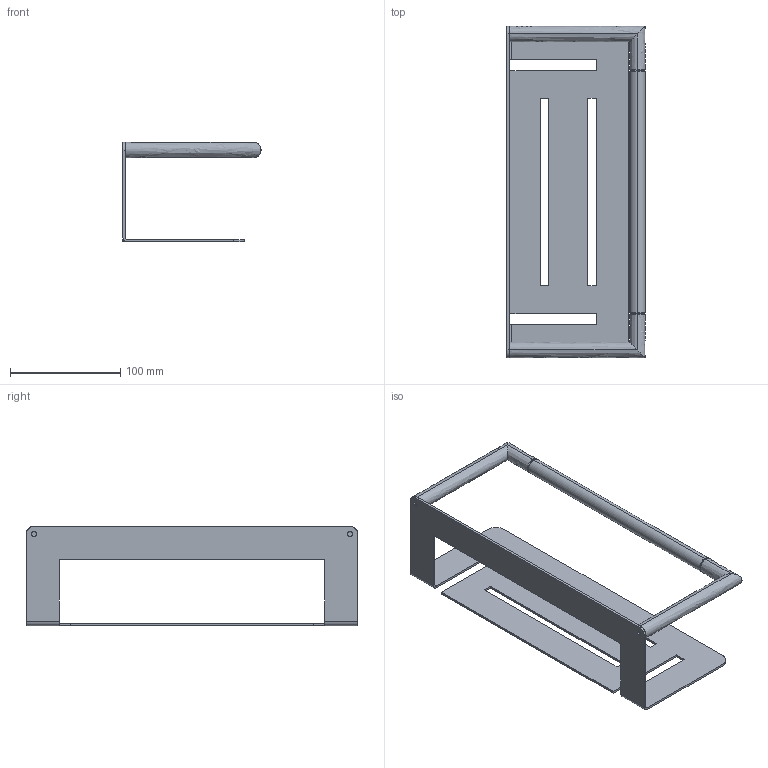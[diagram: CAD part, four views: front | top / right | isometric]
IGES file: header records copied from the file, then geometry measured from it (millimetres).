
Start section: SolidWorks IGES file using analytic representation for surfaces
Global section: file name: G:\Projects\New project\For Marketing\IGS\IGS\2015-12-11\476020002VW.IGS; native system: SolidWorks 2010; preprocessor: SolidWorks 2010; author: weijuan; date: 151207.153004; units: inch
Bounding box: 125 x 300 x 90 mm (x, y, z)
Surface area: 113783.5 mm2 (no closed solid volume)
Topology: 0 solids, 0 shells, 99 faces, 1139 edges, 1139 vertices
Faces by surface type: bspline 56, revolution 43
